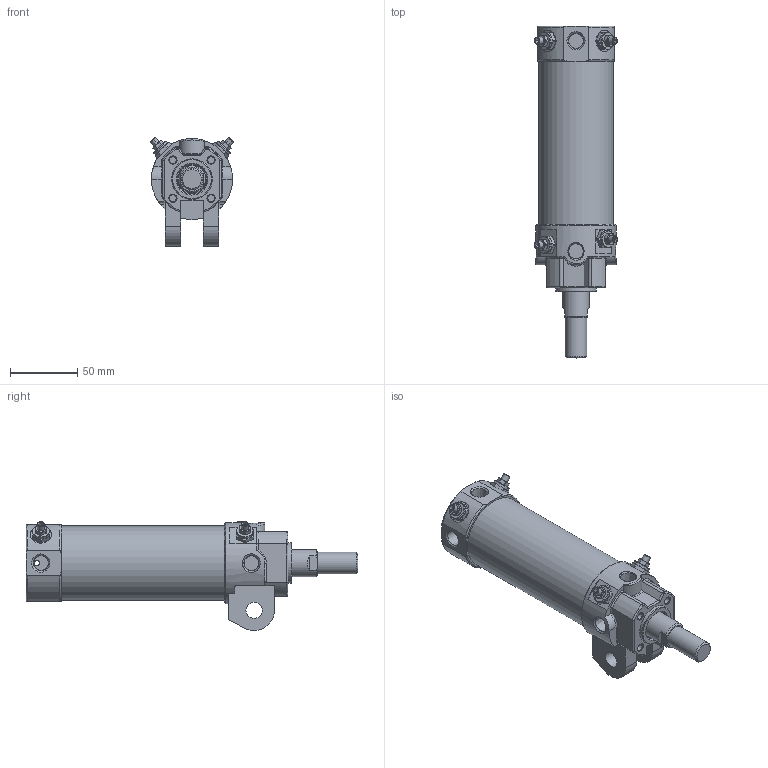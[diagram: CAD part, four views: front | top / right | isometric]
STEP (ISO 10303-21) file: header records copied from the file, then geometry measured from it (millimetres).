
FILE_DESCRIPTION((''),'2;1');
FILE_NAME('I:\3D電子目錄\氣缸\DCK\DCK\DCK-1A-50x75.stp','2008-02-26T14:12:01',('Administrator'),(''),'Autodesk Inventor 11','Autodesk Inventor 11','');
FILE_SCHEMA(('AUTOMOTIVE_DESIGN { 1 0 10303 214 1 1 1 1 }'));
Length unit declared in the file: millimetre
Products named in the file (6): DCK-1A-50; 緩衝針; 緩衝針-1; 緩衝針-201; 緩衝針-3
Assembly tree (8 placements, depth 3):
  DCK-1A-50
    DCK-1A-50
    緩衝針  x4
      緩衝針-1
      緩衝針-201
      緩衝針-3
Bounding box: 61.76 x 246 x 80.87 mm (x, y, z)
Volume: 238771.4 mm3; surface area: 101948 mm2
Topology: 15 solids, 15 shells, 570 faces, 1270 edges, 794 vertices
Faces by surface type: plane 213, cylinder 168, cone 133, torus 30, bspline 26
Full cylindrical faces by diameter (mm): 2 x2, 3 x4, 3.8 x2, 4 x6, 4.6 x4, 5 x8, 5.1 x4, 5.2 x12, 5.5 x4, 7.25 x1, 7.9 x4, 8 x2, 10.3 x1, 11.3 x1, 12 x4, 12.8 x4, 16 x2, 20 x1, 21 x1, 22 x2, 23 x1, 24.7 x1, 26 x1, 27 x1, 28 x1, 29 x1, 30 x1, 33 x1, 49.5 x1, 52 x2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
Entity records: 11478 total; most frequent: CARTESIAN_POINT 4706, DIRECTION 1374, ORIENTED_EDGE 1222, EDGE_CURVE 611, AXIS2_PLACEMENT_3D 598, EDGE_LOOP 497, VERTEX_POINT 444, FACE_OUTER_BOUND 321
